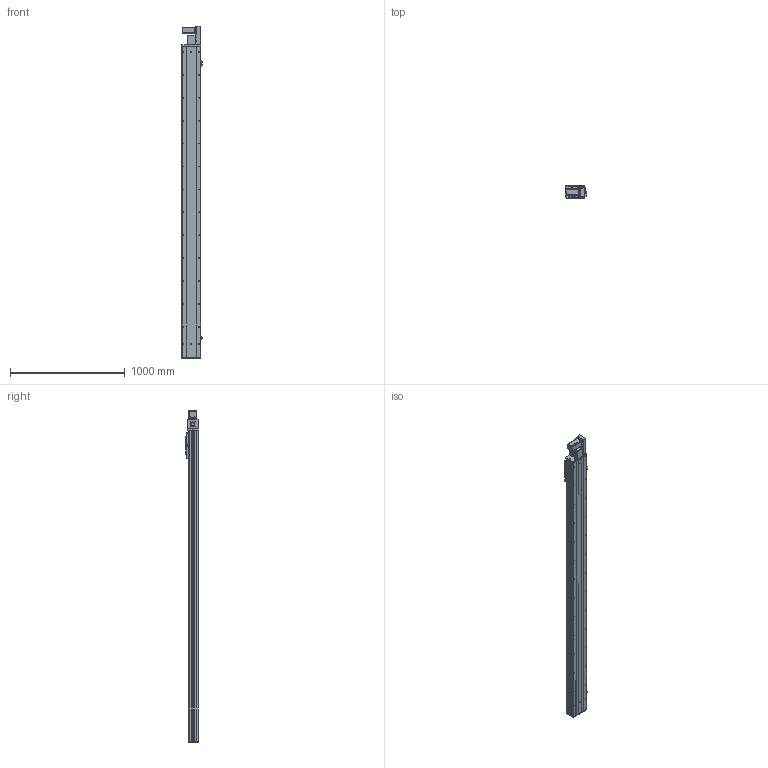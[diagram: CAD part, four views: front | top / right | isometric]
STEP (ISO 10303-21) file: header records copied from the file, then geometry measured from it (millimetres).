
FILE_DESCRIPTION (( 'STEP AP203' ), '1' );
FILE_NAME ('Y170CB-D105-S2400-BR-P400W.STEP', '2020-02-19T09:47:59', ( '微软用户' ), ( '微软中国' ), 'SwSTEP 2.0', 'SolidWorks 2017', '' );
FILE_SCHEMA (( 'CONFIG_CONTROL_DESIGN' ));
Length unit declared in the file: millimetre
Products named in the file (17): Y70俋欶BR----; 70CB-掛极-; --70CB --喘謫眊楊擘啣-; 70CB-耜裔啣-; 70C--詩湍揤踡え-; 70CB--耜裔; 70C-雄赽釱-奻-; 0C--雄赽釱俋欶-170; 70CB-詩湍--; Y100-135俋离換覜ん--; Y170CB-陔俋离換覜結え---; Y170CB-D105-S2400-BR-P400W; 0B-萇儂楊擘啣; san松下电机400不带刹车----; 17B-耜蚾蟀諉啣----; 70B喘謫眊----; B-源倛裔啣
Assembly tree (20 placements, depth 2):
  Y170CB-D105-S2400-BR-P400W
    70B喘謫眊----
    B-源倛裔啣
    17B-耜蚾蟀諉啣----
    0B-萇儂楊擘啣
    san松下电机400不带刹车----
    Y70俋欶BR----
    70CB-掛极-
    --70CB --喘謫眊楊擘啣-
    70CB-耜裔啣-  x2
    70C--詩湍揤踡え-  x2
    70CB--耜裔
    70C-雄赽釱-奻-
    0C--雄赽釱俋欶-170
    70CB-詩湍--
    Y100-135俋离換覜ん--  x3
    Y170CB-陔俋离換覜結え---
Bounding box: 183.5 x 107 x 2897 mm (x, y, z)
Volume: 12044669.1 mm3; surface area: 4340761.3 mm2
Topology: 20 solids, 20 shells, 1049 faces, 2825 edges, 1874 vertices
Faces by surface type: cylinder 563, plane 462, cone 24
Entity records: 33503 total; most frequent: CARTESIAN_POINT 6201, DIRECTION 5452, ORIENTED_EDGE 5132, EDGE_CURVE 2566, AXIS2_PLACEMENT_3D 2005, VERTEX_POINT 1704, LINE 1442, VECTOR 1442
